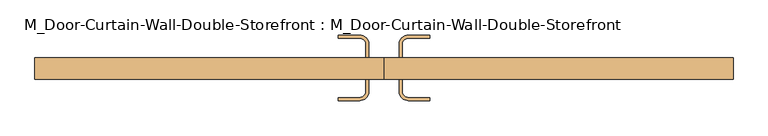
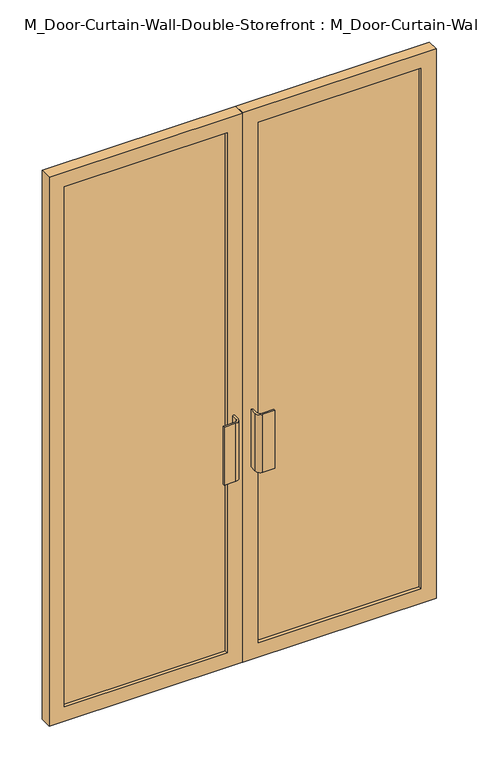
"""IFC4 building model written with IfcOpenShell, lengths in millimetres: door geometry, M_Door-Curtain-Wall-Double-Storefront : M_Door-Curtain-Wall-Double-Storefront."""

from ifc_helpers import new_model, si_unit, point, frame, frame_2d, origin, place, context, project, spatial, polyline, circle_curve, trimmed, segment, composite_curve, outline, extrude, source, transform, mapped, element, save


def m_door_curtain_wall_double_storefront_m_door_curtain_wall_2510477e(model_context):
    return source(origin(), model_context, "Body", "SweptSolid", [
        extrude(outline(polyline([(2175.0, 0.8168501), (0.0, 0.8168501), (0.0, 725.0), (2175.0, 725.0), (2175.0, 0.8168501)]), holes=[polyline([(2117.85, 57.9668501), (2117.85, 667.85), (57.15, 667.85), (57.15, 57.9668501), (2117.85, 57.9668501)])]), frame((0.0, -60.0, 0.0), z_axis=(0.0, 1.0, 0.0), x_axis=(0.0, 0.0, 1.0)), (0.0, 0.0, 1.0), 44.45),
        extrude(outline(polyline([(2175.0, -0.7706499), (2175.0, -725.0), (0.0, -725.0), (0.0, -0.7706499), (2175.0, -0.7706499)]), holes=[polyline([(2117.85, -667.85), (2117.85, -57.9206499), (57.15, -57.9206499), (57.15, -667.85), (2117.85, -667.85)])]), frame((0.0, -60.0, 0.0), z_axis=(0.0, 1.0, 0.0), x_axis=(0.0, 0.0, 1.0)), (0.0, 0.0, 1.0), 44.45),
        extrude(outline(polyline([(667.85, -28.25), (667.85, -47.3), (57.9668501, -47.3), (57.9668501, -28.25), (667.85, -28.25)])), frame((0.0, 0.0, 57.15), z_axis=(0.0, 0.0, 1.0), x_axis=(1.0, 0.0, 0.0)), (0.0, 0.0, 1.0), 2060.7),
        extrude(outline(polyline([(-57.9206499, -28.25), (-57.9206499, -47.3), (-667.85, -47.3), (-667.85, -28.25), (-57.9206499, -28.25)])), frame((0.0, 0.0, 57.15), z_axis=(0.0, 0.0, 1.0), x_axis=(1.0, 0.0, 0.0)), (0.0, 0.0, 1.0), 2060.7),
        extrude(outline(composite_curve([segment(polyline([(-31.7268999, 12.7), (-31.7268999, -15.55), (-38.0768999, -15.55), (-38.0768999, 12.7)]), True, "CONTINUOUS"), segment(trimmed(circle_curve(frame_2d((-50.7768999, 12.7)), 12.7), [point((-38.0768999, 12.7))], [point((-50.7768999, 25.4))], True, "CARTESIAN"), True, "CONTINUOUS"), segment(polyline([(-50.7768999, 25.4), (-95.2268999, 25.4), (-95.2268999, 31.75), (-50.7768999, 31.75)]), True, "CONTINUOUS"), segment(trimmed(circle_curve(frame_2d((-50.7768999, 12.7)), 19.05), [point((-50.7768999, 31.75))], [point((-31.7268999, 12.7))], False, "CARTESIAN"), True, "CONTINUOUS")], self_intersect=False)), frame((0.0, 0.0, 762.0), z_axis=(0.0, 0.0, 1.0), x_axis=(1.0, 0.0, 0.0)), (0.0, 0.0, 1.0), 228.6),
        extrude(outline(composite_curve([segment(trimmed(circle_curve(frame_2d((50.8231001, 12.7)), 19.05), [point((31.7731001, 12.7))], [point((50.8231001, 31.75))], False, "CARTESIAN"), True, "CONTINUOUS"), segment(polyline([(50.8231001, 31.75), (95.2731001, 31.75), (95.2731001, 25.4), (50.8231001, 25.4)]), True, "CONTINUOUS"), segment(trimmed(circle_curve(frame_2d((50.8231001, 12.7)), 12.7), [point((50.8231001, 25.4))], [point((38.1231001, 12.7))], True, "CARTESIAN"), True, "CONTINUOUS"), segment(polyline([(38.1231001, 12.7), (38.1231001, -15.55), (31.7731001, -15.55), (31.7731001, 12.7)]), True, "CONTINUOUS")], self_intersect=False)), frame((0.0, 0.0, 762.0), z_axis=(0.0, 0.0, 1.0), x_axis=(1.0, 0.0, 0.0)), (0.0, 0.0, 1.0), 228.6),
        extrude(outline(composite_curve([segment(trimmed(circle_curve(frame_2d((-50.7768999, -85.4)), 19.05), [point((-31.7268999, -85.4))], [point((-50.7768999, -104.45))], False, "CARTESIAN"), True, "CONTINUOUS"), segment(polyline([(-50.7768999, -104.45), (-95.2268999, -104.45), (-95.2268999, -98.1), (-50.7768999, -98.1)]), True, "CONTINUOUS"), segment(trimmed(circle_curve(frame_2d((-50.7768999, -85.4)), 12.7), [point((-50.7768999, -98.1))], [point((-38.0768999, -85.4))], True, "CARTESIAN"), True, "CONTINUOUS"), segment(polyline([(-38.0768999, -85.4), (-38.0768999, -60.0), (-31.7268999, -60.0), (-31.7268999, -85.4)]), True, "CONTINUOUS")], self_intersect=False)), frame((0.0, 0.0, 762.0), z_axis=(0.0, 0.0, 1.0), x_axis=(1.0, 0.0, 0.0)), (0.0, 0.0, 1.0), 228.6),
        extrude(outline(composite_curve([segment(polyline([(31.7731001, -85.4), (31.7731001, -60.0), (38.1231001, -60.0), (38.1231001, -85.4)]), True, "CONTINUOUS"), segment(trimmed(circle_curve(frame_2d((50.8231001, -85.4)), 12.7), [point((38.1231001, -85.4))], [point((50.8231001, -98.1))], True, "CARTESIAN"), True, "CONTINUOUS"), segment(polyline([(50.8231001, -98.1), (95.2731001, -98.1), (95.2731001, -104.45), (50.8231001, -104.45)]), True, "CONTINUOUS"), segment(trimmed(circle_curve(frame_2d((50.8231001, -85.4)), 19.05), [point((50.8231001, -104.45))], [point((31.7731001, -85.4))], False, "CARTESIAN"), True, "CONTINUOUS")], self_intersect=False)), frame((0.0, 0.0, 762.0), z_axis=(0.0, 0.0, 1.0), x_axis=(1.0, 0.0, 0.0)), (0.0, 0.0, 1.0), 228.6),
    ])


if __name__ == "__main__":
    model = new_model("IFC4")
    model_context = context("Model", 3, world=origin())
    ifc_project = project(units=[si_unit("LENGTHUNIT", "METRE", prefix="MILLI")], contexts=[model_context])
    site = spatial("IfcSite", under=ifc_project)
    building = spatial("IfcBuilding", under=site)
    placement = place(None, origin())
    m_door_curtain_wall_double_storefront_m_door_curtain_wall_shape = m_door_curtain_wall_double_storefront_m_door_curtain_wall_2510477e(model_context)
    element("IfcDoor", 1, ObjectType="M_Door-Curtain-Wall-Double-Storefront : M_Door-Curtain-Wall-Double-Storefront", at=placement, inside=building, context=model_context, shape_type="MappedRepresentation", body=[
        mapped(m_door_curtain_wall_double_storefront_m_door_curtain_wall_shape, transform((0.0, 0.0, 0.0), x_axis=(1.0, 0.0, 0.0), y_axis=(0.0, 1.0, 0.0), z_axis=(0.0, 0.0, 1.0))),
    ])
    save(model, "model.ifc")
